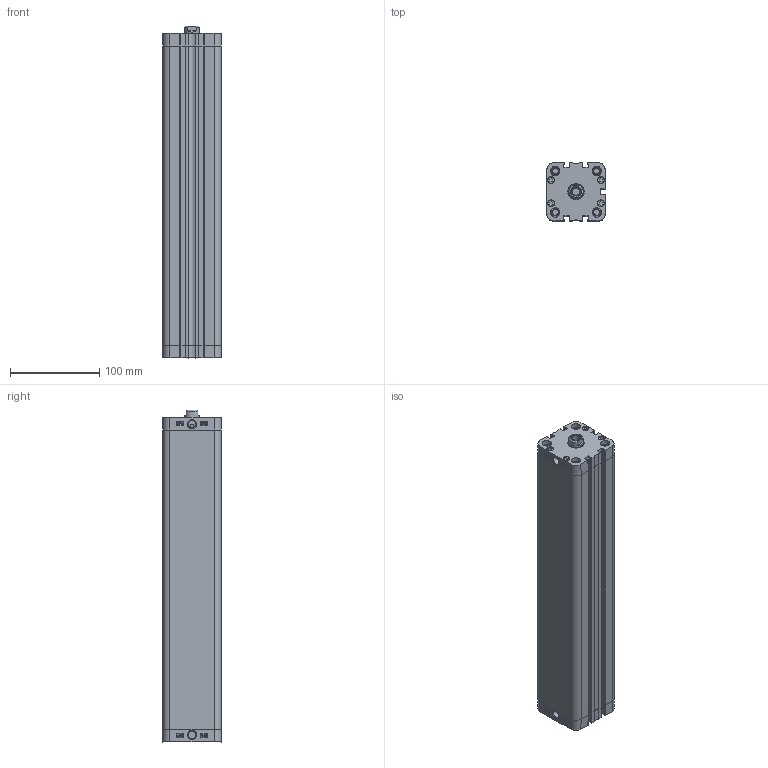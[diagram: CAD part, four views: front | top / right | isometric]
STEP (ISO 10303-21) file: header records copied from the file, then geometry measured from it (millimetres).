
FILE_DESCRIPTION(/* description */ ('Unknown'),/* implementation_level */ '2;1');
FILE_NAME(/* name */ 'ZIN 50_320',/* time_stamp */ '2024-11-12T08:16:26+01:00',/* author */ ('Unknown'),/* organization */ ('HAFNER Pneumatika Kft.'),/* preprocessor_version */ 'ST-DEVELOPER v18.102',/* originating_system */ 'Solid Edge',/* authorisation */ 'Unknown');
FILE_SCHEMA (('AUTOMOTIVE_DESIGN {1 0 10303 214 3 1 1}'));
Length unit declared in the file: millimetre
Products named in the file (5): ZIN 50_320; Profilrohr; Kolbenstange; Kit_2; Kit_1
Assembly tree (4 placements, depth 2):
  ZIN 50_320
    Profilrohr
    Kolbenstange
    Kit_2
    Kit_1
Bounding box: 65.5 x 65.5 x 373 mm (x, y, z)
Volume: 909659.8 mm3; surface area: 216929.1 mm2
Topology: 4 solids, 12 shells, 731 faces, 1898 edges, 1250 vertices
Faces by surface type: plane 336, cylinder 212, bspline 108, torus 43, cone 32
Full cylindrical faces by diameter (mm): 3.5 x1, 5.2 x8, 6.647 x8, 7.5 x8, 7.7 x8, 8.376 x2, 8.566 x2, 10.5 x8, 12 x1, 16 x1, 16.54 x1, 17.7 x1, 18 x1, 20.5 x1, 50 x2
Entity records: 27380 total; most frequent: CARTESIAN_POINT 5777, ORIENTED_EDGE 3548, DIRECTION 3270, EDGE_CURVE 1774, VERTEX_POINT 1220, AXIS2_PLACEMENT_3D 1127, LINE 1016, VECTOR 1016
